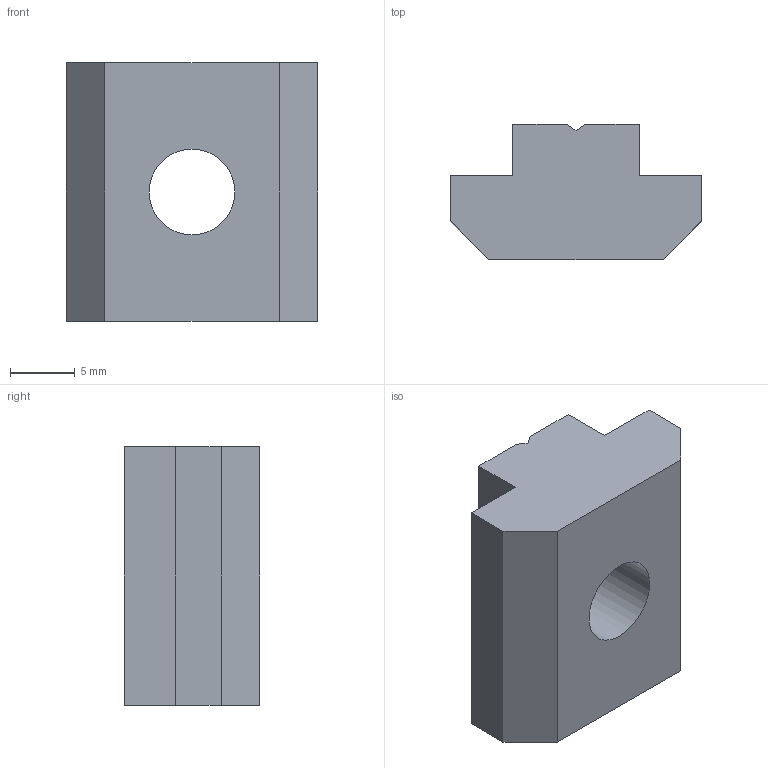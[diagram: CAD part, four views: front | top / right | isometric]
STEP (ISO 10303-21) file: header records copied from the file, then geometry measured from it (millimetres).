
FILE_DESCRIPTION((''),'2;1');
FILE_NAME('E:\catalogue and flyer\Profile catalogue 2015\Accessories JE info\Accessories-JE step file 31MAr16\JE-SB8-10.stp','2016-04-07T11:38:12',('h029'),(''),'Autodesk Inventor 11','Autodesk Inventor 11','');
FILE_SCHEMA(('AUTOMOTIVE_DESIGN { 1 0 10303 214 1 1 1 1 }'));
Length unit declared in the file: millimetre
Products named in the file (1): JE-SB8-10
Bounding box: 19.5 x 10.5 x 20 mm (x, y, z)
Volume: 2767.2 mm3; surface area: 1590.5 mm2
Topology: 1 solids, 1 shells, 20 faces, 53 edges, 34 vertices
Faces by surface type: plane 17, cone 2, bspline 1
Entity records: 640 total; most frequent: CARTESIAN_POINT 122, ORIENTED_EDGE 102, DIRECTION 100, EDGE_CURVE 51, VECTOR 42, LINE 42, VERTEX_POINT 33, AXIS2_PLACEMENT_3D 29
